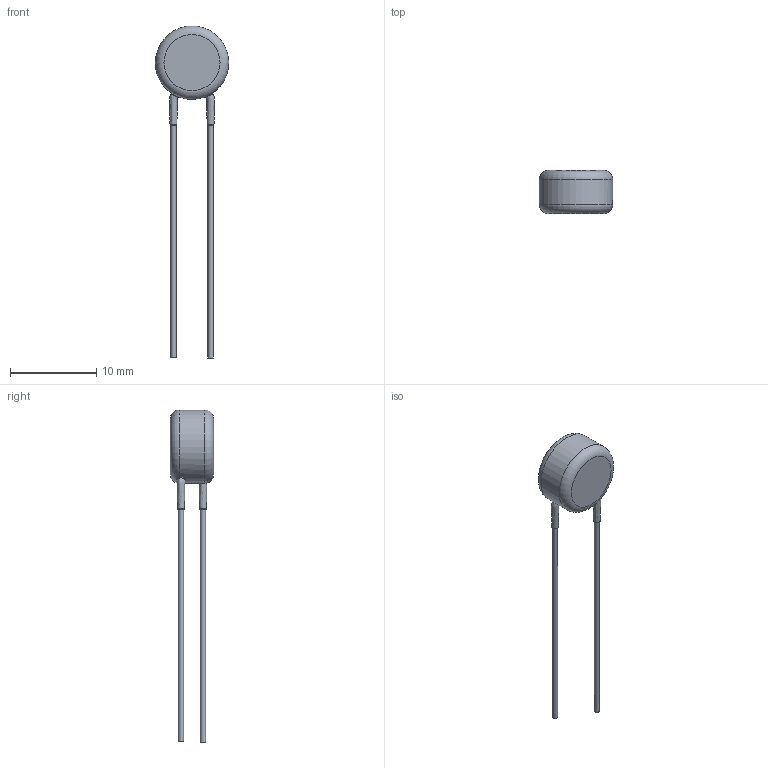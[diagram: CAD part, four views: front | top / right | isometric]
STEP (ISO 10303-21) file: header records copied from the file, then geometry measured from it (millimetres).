
FILE_DESCRIPTION(/* description */ (''),/* implementation_level */ '2;1');
FILE_NAME(/* name */ 'I:\Marketing\M6t1\3D-Models\Zchng-Werk-3\Upload for homepage\BCC neu\AY2 Straight\Step\AY2152#31Y5US63L5.stp',/* time_stamp */ '2023-07-13T14:02:51+02:00',/* author */ ('truediger'),/* organization */ (''),/* preprocessor_version */ 'ST-DEVELOPER v18',/* originating_system */ 'Autodesk Inventor 2020',/* authorisation */ '');
FILE_SCHEMA (('AUTOMOTIVE_DESIGN { 1 0 10303 214 3 1 1 }'));
Length unit declared in the file: millimetre
Products named in the file (1): Bauteil2
Bounding box: 8.5 x 5 x 38.5 mm (x, y, z)
Volume: 292.2 mm3; surface area: 343.5 mm2
Topology: 1 solids, 1 shells, 19 faces, 47 edges, 32 vertices
Faces by surface type: bspline 8, plane 6, cylinder 3, torus 2
Full cylindrical faces by diameter (mm): 0.6 x2, 8.5 x1
Entity records: 1479 total; most frequent: CARTESIAN_POINT 998, ORIENTED_EDGE 94, DIRECTION 75, EDGE_CURVE 47, AXIS2_PLACEMENT_3D 36, VERTEX_POINT 32, CIRCLE 24, EDGE_LOOP 21
